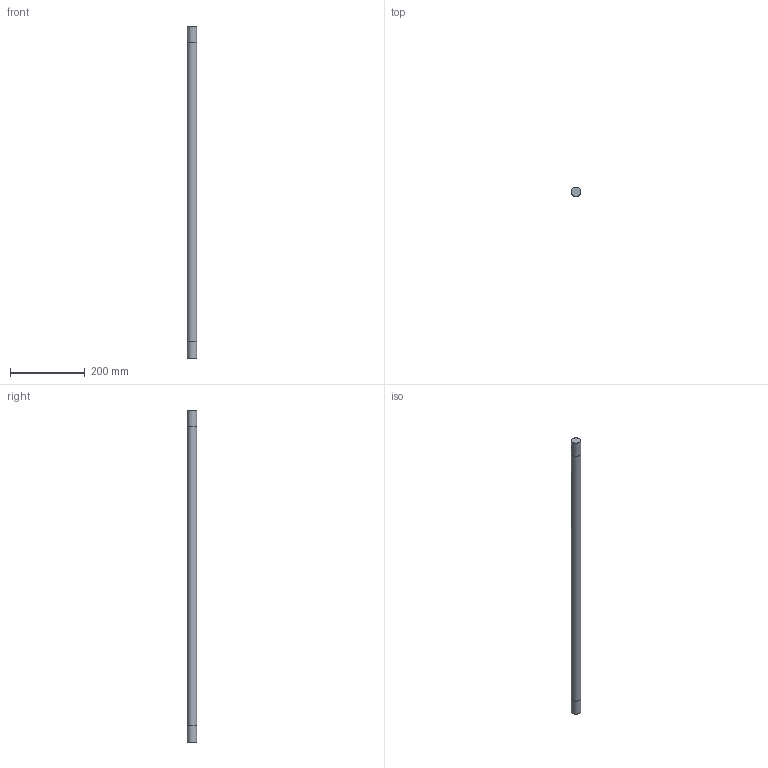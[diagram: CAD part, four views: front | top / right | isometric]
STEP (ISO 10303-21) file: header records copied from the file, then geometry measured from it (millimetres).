
FILE_DESCRIPTION(/* description */ (''),/* implementation_level */ '2;1');
FILE_NAME(/* name */ 'S:\UFFICIO TECNICO 2019\PRODOTTI ROTALIANA\SOUVLAKI\CONFIGURATORE\FILES X CONFIGURATORE\ipt INVENTOR\ASVTL001_tubo luminoso 890mm.stp',/* time_stamp */ '2024-03-13T10:30:17+01:00',/* author */ ('mtesta'),/* organization */ (''),/* preprocessor_version */ 'ST-DEVELOPER v18.1',/* originating_system */ 'Autodesk Inventor 2021',/* authorisation */ '');
FILE_SCHEMA (('AUTOMOTIVE_DESIGN { 1 0 10303 214 3 1 1 }'));
Length unit declared in the file: millimetre
Products named in the file (1): A05648
Bounding box: 25.39 x 25.36 x 890 mm (x, y, z)
Volume: 448117.1 mm3; surface area: 106052.9 mm2
Topology: 4 solids, 4 shells, 14 faces, 21 edges, 15 vertices
Faces by surface type: plane 10, cylinder 3, cone 1
Full cylindrical faces by diameter (mm): 25 x1
Entity records: 380 total; most frequent: DIRECTION 62, CARTESIAN_POINT 51, ORIENTED_EDGE 42, AXIS2_PLACEMENT_3D 26, EDGE_CURVE 21, VERTEX_POINT 15, FACE_OUTER_BOUND 14, EDGE_LOOP 14
